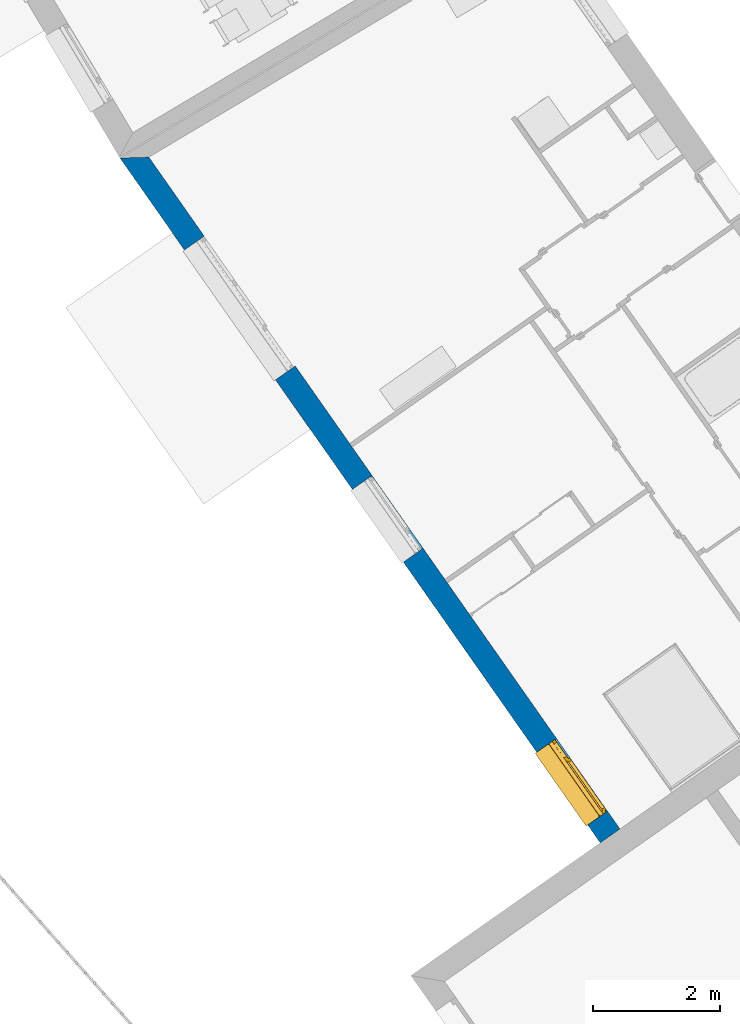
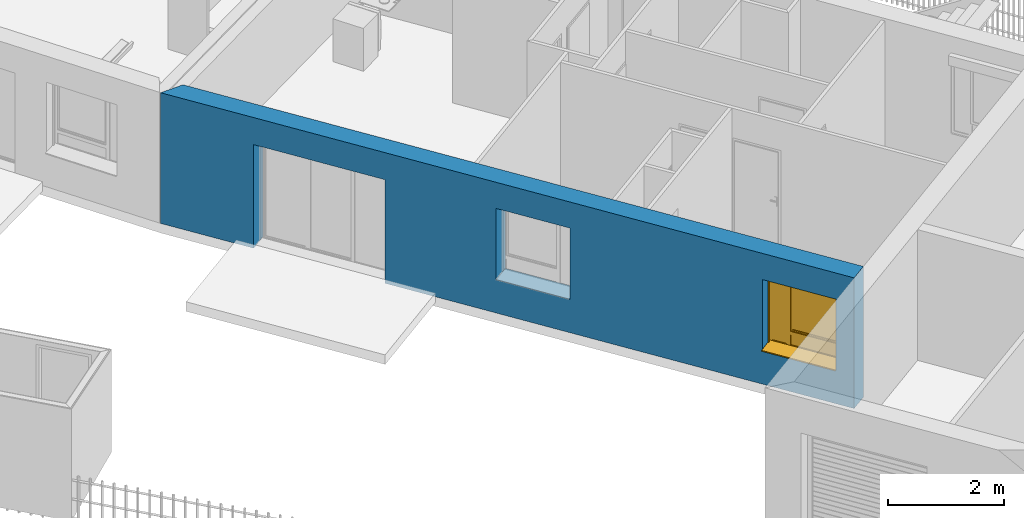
# One storey, part 28 of 195: 1 wall, 1 window, 3 openings.
"""IFC2X3 building model written with IfcOpenShell, lengths in metres."""

from ifc_helpers import new_model, entity, si_unit, converted_unit, derived_unit, money_unit, direction, frame, origin_with_axes, place, context, subcontext, project, spatial, polyline, outline, extrude, open_shell, faceted_brep, surface_model, source, transform, mapped, material, layer, layer_set, layer_usage, type_object, element, fill, save


model = new_model("IFC2X3")

# Units and contexts
model_context = context("Model", 3, precision=1e-05, world=origin_with_axes(), true_north=direction((0.0, 1.0)))
body_context = subcontext(model_context, "Body", "Model", "MODEL_VIEW")
ifc_project = project(units=[si_unit("LENGTHUNIT", "METRE"), si_unit("AREAUNIT", "SQUARE_METRE"), si_unit("VOLUMEUNIT", "CUBIC_METRE"), converted_unit("PLANEANGLEUNIT", "DEGREE", entity("IfcPlaneAngleMeasure", 0.0174532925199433), si_unit("PLANEANGLEUNIT", "RADIAN"), dimensions=[0, 0, 0, 0, 0, 0, 0]), money_unit("CHF"), converted_unit("TIMEUNIT", "Year", entity("IfcTimeMeasure", 31557600.0), si_unit("TIMEUNIT", "SECOND"), dimensions=[0, 0, 1, 0, 0, 0, 0]), si_unit("MASSUNIT", "GRAM", prefix="KILO"), si_unit("THERMODYNAMICTEMPERATUREUNIT", "DEGREE_CELSIUS"), si_unit("LUMINOUSINTENSITYUNIT", "LUMEN"), si_unit("ENERGYUNIT", "JOULE", prefix="MEGA"), derived_unit("THERMALCONDUCTANCEUNIT", [(si_unit("POWERUNIT", "WATT"), 1), (si_unit("LENGTHUNIT", "METRE"), -1), (si_unit("THERMODYNAMICTEMPERATUREUNIT", "KELVIN"), -1)]), derived_unit("SPECIFICHEATCAPACITYUNIT", [(si_unit("ENERGYUNIT", "JOULE"), 1), (si_unit("MASSUNIT", "GRAM", prefix="KILO"), -1), (si_unit("THERMODYNAMICTEMPERATUREUNIT", "KELVIN"), -1)]), derived_unit("MASSDENSITYUNIT", [(si_unit("MASSUNIT", "GRAM", prefix="KILO"), 1), (si_unit("VOLUMEUNIT", "CUBIC_METRE"), -1)])], contexts=[model_context])

# Site, building, storey
site_placement = place(None, origin_with_axes())
site = spatial("IfcSite", under=ifc_project, at=site_placement, Name="Site", CompositionType="ELEMENT")
building_placement = place(site_placement, origin_with_axes())
building = spatial("IfcBuilding", under=site, at=building_placement, Name="Bâtiment", CompositionType="ELEMENT")
storey_placement = place(building_placement, origin_with_axes())
storey = spatial("IfcBuildingStorey", under=building, at=storey_placement, Name="rdc", CompositionType="ELEMENT", Elevation=0.0)

# Wall, openings, window
ifc_material_1 = material(Name="Parpaing 312445824")
ifc_layer_1 = layer(ifc_material_1, 0.22, ventilated="UNKNOWN")
ifc_material_2 = material(Name="Isolant styromousse 301821074")
ifc_layer_2 = layer(ifc_material_2, 0.16, ventilated="UNKNOWN")
ifc_layer_set = layer_set([ifc_layer_1, ifc_layer_2], Name="isol int 22+16 0836643197")
ifc_layer_usage = layer_usage(ifc_layer_set, "AXIS2", "NEGATIVE", 0.0)
wall_type = type_object("IfcWallType", Name="isol int 22+16 0836643197 380", PredefinedType="NOTDEFINED")
wall_placement = place(storey_placement, frame((9550.793347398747, -1066.018324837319, 57.7), z_axis=(0.0, 0.0, 1.0), x_axis=(-0.5741598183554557, 0.8187432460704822, 0.0)))
wall = element("IfcWallStandardCase", 1, at=wall_placement, inside=storey, type_object=wall_type, material=ifc_layer_usage, Name="Mur-113", context=body_context, shape_type="SweptSolid", body=[
    extrude(outline(polyline([(0.0, -0.3799999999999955), (12.93611826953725, -0.3799999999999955), (13.184998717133, 0.0), (0.0, 0.0), (0.0, -0.3799999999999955)])), origin_with_axes(), (0.0, 0.0, 1.0), 2.75),
])
opening_1_placement = place(wall_placement, frame((1.044025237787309, 0.0, 0.7000000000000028), z_axis=(0.0, 0.0, 1.0), x_axis=(1.0, 0.0, 0.0)))
opening_1 = element("IfcOpeningElement", 2, at=opening_1_placement, cuts=wall, Name="Fen-045", context=body_context, shape_type="Brep", body=[
    faceted_brep([(0.7000000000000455, -0.4800000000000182, 1.5), (-0.6999999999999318, -0.4799999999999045, 1.5), (-0.6999999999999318, -6.579129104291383, 1.5), (0.7000000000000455, -6.579129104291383, 1.5), (0.7000000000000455, -0.4800000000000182, 1.700000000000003), (-0.6999999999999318, -0.4799999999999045, 1.700000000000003), (-0.6999999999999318, -0.3000000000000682, 1.5), (-0.6999999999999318, -0.3000000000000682, 0.0), (-0.6999999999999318, -6.579129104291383, 0.0), (0.7000000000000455, -6.579129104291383, 0.0), (0.7000000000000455, -0.3000000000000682, 1.5), (0.7000000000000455, -0.3000000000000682, 0.0), (0.7000000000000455, -0.2200000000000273, 1.5), (0.7000000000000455, -0.2200000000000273, 1.700000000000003), (-0.7000000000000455, -0.2200000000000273, 1.700000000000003), (-0.7000000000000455, -0.2200000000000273, 1.5), (-0.6999999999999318, 6.199129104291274, 1.5), (-0.6999999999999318, 6.199129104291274, 0.0), (0.7000000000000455, 6.199129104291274, 0.0), (0.7000000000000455, 6.199129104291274, 1.5)], [[[0, 1, 2, 3]], [[1, 0, 4, 5]], [[1, 6, 7, 8, 2]], [[2, 8, 9, 3]], [[10, 0, 3, 9, 11]], [[0, 10, 12, 13, 4]], [[4, 13, 14, 5]], [[6, 1, 5, 14, 15]], [[6, 15, 16, 17, 7]], [[7, 11, 9, 8]], [[12, 10, 11, 18, 19]], [[12, 15, 14, 13]], [[15, 12, 19, 16]], [[19, 18, 17, 16]], [[11, 7, 17, 18]]]),
])
opening_2_placement = place(wall_placement, frame((10.16490185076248, 0.0, 0.0), z_axis=(0.0, 0.0, 1.0), x_axis=(1.0, 0.0, 0.0)))
element("IfcOpeningElement", 3, at=opening_2_placement, cuts=wall, Name="Fen-045", context=body_context, shape_type="Brep", body=[
    faceted_brep([(1.25, -0.4799999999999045, 2.18), (-1.25, -0.4800000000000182, 2.18), (-1.25, -6.579129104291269, 2.18), (1.25, -6.579129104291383, 2.18), (1.25, -0.4799999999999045, 2.380000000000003), (-1.25, -0.4800000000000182, 2.380000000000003), (-1.25, -0.3000000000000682, 2.18), (-1.25, -0.3000000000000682, 0.0), (-1.25, -6.579129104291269, 0.0), (1.25, -6.579129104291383, 0.0), (1.25, -0.2999999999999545, 2.18), (1.25, -0.2999999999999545, 0.0), (1.25, -0.2200000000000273, 2.18), (1.25, -0.2200000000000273, 2.380000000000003), (-1.25, -0.2200000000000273, 2.380000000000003), (-1.25, -0.2200000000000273, 2.18), (-1.25, 6.199129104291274, 2.18), (-1.25, 6.199129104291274, 0.0), (1.25, 6.199129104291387, 0.0), (1.25, 6.199129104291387, 2.18)], [[[0, 1, 2, 3]], [[1, 0, 4, 5]], [[1, 6, 7, 8, 2]], [[2, 8, 9, 3]], [[10, 0, 3, 9, 11]], [[0, 10, 12, 13, 4]], [[14, 5, 4, 13]], [[6, 1, 5, 14, 15]], [[6, 15, 16, 17, 7]], [[7, 11, 9, 8]], [[12, 10, 11, 18, 19]], [[12, 15, 14, 13]], [[15, 12, 19, 16]], [[19, 18, 17, 16]], [[11, 7, 17, 18]]]),
])
opening_3_placement = place(wall_placement, frame((6.105388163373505, 0.0, 0.7000000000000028), z_axis=(0.0, 0.0, 1.0), x_axis=(1.0, 0.0, 0.0)))
element("IfcOpeningElement", 4, at=opening_3_placement, cuts=wall, Name="Fen-045", context=body_context, shape_type="Brep", body=[
    faceted_brep([(0.6999999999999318, -0.4799999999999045, 1.5), (-0.7000000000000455, -0.4800000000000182, 1.5), (-0.7000000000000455, -6.579129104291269, 1.5), (0.6999999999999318, -6.579129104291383, 1.5), (0.6999999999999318, -0.4799999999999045, 1.700000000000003), (-0.7000000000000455, -0.4800000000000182, 1.700000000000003), (-0.7000000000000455, -0.2999999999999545, 1.5), (-0.7000000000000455, -0.2999999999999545, 0.0), (-0.7000000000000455, -6.579129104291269, 0.0), (0.6999999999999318, -6.579129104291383, 0.0), (0.6999999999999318, -0.2999999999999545, 1.5), (0.6999999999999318, -0.2999999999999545, 0.0), (0.6999999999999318, -0.2200000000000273, 1.5), (0.6999999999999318, -0.2200000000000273, 1.700000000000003), (-0.7000000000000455, -0.2199999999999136, 1.700000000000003), (-0.7000000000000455, -0.2199999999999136, 1.5), (-0.7000000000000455, 6.199129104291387, 1.5), (-0.7000000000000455, 6.199129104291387, 0.0), (0.6999999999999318, 6.199129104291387, 0.0), (0.6999999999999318, 6.199129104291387, 1.5)], [[[0, 1, 2, 3]], [[1, 0, 4, 5]], [[1, 6, 7, 8, 2]], [[2, 8, 9, 3]], [[10, 0, 3, 9, 11]], [[0, 10, 12, 13, 4]], [[14, 5, 4, 13]], [[6, 1, 5, 14, 15]], [[6, 15, 16, 17, 7]], [[7, 11, 9, 8]], [[12, 10, 11, 18, 19]], [[12, 15, 14, 13]], [[15, 12, 19, 16]], [[19, 18, 17, 16]], [[11, 7, 17, 18]]]),
])
window_style = type_object("IfcWindowStyle", Name="Fenêtre variable 27", ConstructionType="NOTDEFINED", OperationType="TRIPLE_PANEL_LEFT", ParameterTakesPrecedence=False, Sizeable=False)
shared_shape = source(origin_with_axes(), body_context, "Body", "SurfaceModel", [
    surface_model("IfcShellBasedSurfaceModel", [(0.7, -0.05100000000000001, 0.05), (-0.7, -0.05100000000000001, 0.05000000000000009), (-0.7, -0.05100000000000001, 0.04000000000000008), (0.7, -0.05100000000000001, 0.04), (-0.7, -0.3799999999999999, 0.02900000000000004), (0.7, -0.3799999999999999, 0.02899999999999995), (-0.7, -0.3799999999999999, 0.00900000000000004), (0.7, -0.3799999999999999, 0.008999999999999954), (-0.7, -0.3699999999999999, 0.01900000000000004), (0.7, -0.3699999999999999, 0.01899999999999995)], [open_shell([[[0, 1, 2, 3]], [[3, 2, 4, 5]], [[5, 4, 6, 7]], [[7, 6, 8, 9]]])]),
    faceted_brep([(0.7, -0.13, 1.7), (0.7, 0.13, 1.7), (0.697, 0.13, 1.7), (0.697, -0.13, 1.7), (0.7, -0.13, 1.5), (0.7, 0.13, 1.5), (0.697, 0.13, 1.5), (0.697, -0.13, 1.5)], [[[0, 1, 2, 3]], [[0, 4, 5, 1]], [[1, 5, 6, 2]], [[3, 2, 6, 7]], [[4, 0, 3, 7]], [[5, 4, 7, 6]]]),
    faceted_brep([(-0.6970000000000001, -0.1299999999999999, 1.7), (-0.6970000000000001, 0.1300000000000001, 1.7), (-0.7000000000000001, 0.1300000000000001, 1.7), (-0.7000000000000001, -0.1299999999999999, 1.7), (-0.6970000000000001, -0.1299999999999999, 1.5), (-0.6970000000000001, 0.1300000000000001, 1.5), (-0.7000000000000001, 0.1300000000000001, 1.5), (-0.7000000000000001, -0.1299999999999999, 1.5)], [[[0, 1, 2, 3]], [[0, 4, 5, 1]], [[1, 5, 6, 2]], [[3, 2, 6, 7]], [[4, 0, 3, 7]], [[5, 4, 7, 6]]]),
    faceted_brep([(0.697, -0.13, 1.5), (0.697, -0.13, 1.7), (-0.697, -0.1299999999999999, 1.7), (-0.697, -0.1299999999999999, 1.5), (0.697, -0.127, 1.5), (0.697, -0.127, 1.697), (0.697, 0.127, 1.697), (0.697, 0.127, 1.503), (0.697, -0.108, 1.503), (0.697, -0.108, 1.5), (0.697, 0.13, 1.5), (0.697, 0.13, 1.7), (-0.697, 0.1300000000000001, 1.7), (-0.697, 0.1300000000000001, 1.5), (-0.697, -0.1079999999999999, 1.5), (-0.697, -0.1079999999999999, 1.503), (-0.697, 0.1270000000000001, 1.503), (-0.697, 0.1270000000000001, 1.697), (-0.697, -0.1269999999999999, 1.697), (-0.697, -0.1269999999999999, 1.5)], [[[0, 1, 2, 3]], [[0, 4, 5, 6, 7, 8, 9, 10, 11, 1]], [[1, 11, 12, 2]], [[3, 2, 12, 13, 14, 15, 16, 17, 18, 19]], [[4, 0, 3, 19]], [[5, 4, 19, 18]], [[6, 5, 18, 17]], [[7, 6, 17, 16]], [[8, 7, 16, 15]], [[9, 8, 15, 14]], [[10, 9, 14, 13]], [[11, 10, 13, 12]]]),
    faceted_brep([(0.694, -0.08075423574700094, 1.585760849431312), (0.694, -0.07705479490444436, 1.571954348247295), (0.694, -0.07101408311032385, 1.559), (0.694, -0.06281564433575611, 1.547291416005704), (0.694, -0.05270858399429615, 1.537184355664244), (0.694, -0.04099999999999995, 1.528985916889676), (0.694, -0.02804565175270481, 1.522945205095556), (0.694, -0.01423915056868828, 1.519245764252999), (0.694, 0.0, 1.518), (0.694, 0.01423915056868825, 1.519245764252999), (0.694, 0.02804565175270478, 1.522945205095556), (0.694, 0.04099999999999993, 1.528985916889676), (0.694, 0.05270858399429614, 1.537184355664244), (0.694, 0.06281564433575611, 1.547291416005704), (0.694, 0.07101408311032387, 1.559), (0.694, 0.07705479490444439, 1.571954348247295), (0.694, 0.08075423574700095, 1.585760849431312), (0.694, 0.0819999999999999, 1.6), (0.694, 0.08075423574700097, 1.614239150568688), (0.694, 0.0770547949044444, 1.628045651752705), (0.694, 0.07101408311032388, 1.641), (0.694, 0.06281564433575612, 1.652708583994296), (0.694, 0.05270858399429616, 1.662815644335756), (0.694, 0.04099999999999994, 1.671014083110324), (0.694, 0.02804565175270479, 1.677054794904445), (0.694, 0.01423915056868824, 1.680754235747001), (0.694, 0.0, 1.682), (0.694, -0.01423915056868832, 1.680754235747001), (0.694, -0.02804565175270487, 1.677054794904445), (0.694, -0.04100000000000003, 1.671014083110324), (0.694, -0.05270858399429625, 1.662815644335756), (0.694, -0.06281564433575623, 1.652708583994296), (0.694, -0.07101408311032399, 1.641), (0.694, -0.07705479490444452, 1.628045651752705), (0.694, -0.0807542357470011, 1.614239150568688), (0.694, -0.08200000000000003, 1.6), (-0.694, -0.08075423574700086, 1.585760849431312), (-0.694, -0.07705479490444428, 1.571954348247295), (-0.694, -0.07101408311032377, 1.559), (-0.694, -0.06281564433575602, 1.547291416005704), (-0.694, -0.05270858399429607, 1.537184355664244), (-0.694, -0.04099999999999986, 1.528985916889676), (-0.694, -0.02804565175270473, 1.522945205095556), (-0.694, -0.0142391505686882, 1.519245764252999), (-0.694, 0.0, 1.518), (-0.694, 0.01423915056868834, 1.519245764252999), (-0.694, 0.02804565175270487, 1.522945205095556), (-0.694, 0.04100000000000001, 1.528985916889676), (-0.694, 0.05270858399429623, 1.537184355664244), (-0.694, 0.06281564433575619, 1.547291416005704), (-0.694, 0.07101408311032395, 1.559), (-0.694, 0.07705479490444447, 1.571954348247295), (-0.694, 0.08075423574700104, 1.585760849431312), (-0.694, 0.08199999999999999, 1.6), (-0.694, 0.08075423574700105, 1.614239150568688), (-0.694, 0.07705479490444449, 1.628045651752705), (-0.694, 0.07101408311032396, 1.641), (-0.694, 0.0628156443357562, 1.652708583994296), (-0.694, 0.05270858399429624, 1.662815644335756), (-0.694, 0.04100000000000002, 1.671014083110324), (-0.694, 0.02804565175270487, 1.677054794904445), (-0.694, 0.01423915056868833, 1.680754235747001), (-0.694, 0.0, 1.682), (-0.694, -0.01423915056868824, 1.680754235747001), (-0.694, -0.02804565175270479, 1.677054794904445), (-0.694, -0.04099999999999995, 1.671014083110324), (-0.694, -0.05270858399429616, 1.662815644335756), (-0.694, -0.06281564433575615, 1.652708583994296), (-0.694, -0.07101408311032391, 1.641), (-0.694, -0.07705479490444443, 1.628045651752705), (-0.694, -0.08075423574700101, 1.614239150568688), (-0.694, -0.08199999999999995, 1.6)], [[[0, 1, 2, 3, 4, 5, 6, 7, 8, 9, 10, 11, 12, 13, 14, 15, 16, 17, 18, 19, 20, 21, 22, 23, 24, 25, 26, 27, 28, 29, 30, 31, 32, 33, 34, 35]], [[1, 0, 36, 37]], [[2, 1, 37, 38]], [[3, 2, 38, 39]], [[4, 3, 39, 40]], [[5, 4, 40, 41]], [[6, 5, 41, 42]], [[7, 6, 42, 43]], [[8, 7, 43, 44]], [[9, 8, 44, 45]], [[10, 9, 45, 46]], [[11, 10, 46, 47]], [[12, 11, 47, 48]], [[13, 12, 48, 49]], [[14, 13, 49, 50]], [[15, 14, 50, 51]], [[16, 15, 51, 52]], [[17, 16, 52, 53]], [[18, 17, 53, 54]], [[19, 18, 54, 55]], [[20, 19, 55, 56]], [[21, 20, 56, 57]], [[22, 21, 57, 58]], [[23, 22, 58, 59]], [[24, 23, 59, 60]], [[25, 24, 60, 61]], [[26, 25, 61, 62]], [[27, 26, 62, 63]], [[28, 27, 63, 64]], [[29, 28, 64, 65]], [[30, 29, 65, 66]], [[31, 30, 66, 67]], [[32, 31, 67, 68]], [[33, 32, 68, 69]], [[34, 33, 69, 70]], [[35, 34, 70, 71]], [[0, 35, 71, 36]], [[36, 71, 70, 69, 68, 67, 66, 65, 64, 63, 62, 61, 60, 59, 58, 57, 56, 55, 54, 53, 52, 51, 50, 49, 48, 47, 46, 45, 44, 43, 42, 41, 40, 39, 38, 37]]]),
    faceted_brep([(-0.7, -0.105, 0.03), (-0.7, -0.13, 0.03), (-0.7, -0.1299999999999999, 1.5), (-0.7, -0.1049999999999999, 1.5), (-0.6749999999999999, -0.105, 0.03), (-0.6749999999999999, -0.108, 0.03), (-0.697, -0.108, 0.03), (-0.697, -0.127, 0.03), (-0.6749999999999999, -0.127, 0.03), (-0.6749999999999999, -0.13, 0.03), (-0.6749999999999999, -0.1299999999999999, 1.5), (-0.6749999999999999, -0.1269999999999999, 1.5), (-0.697, -0.1269999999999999, 1.5), (-0.697, -0.1079999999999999, 1.5), (-0.6749999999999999, -0.1079999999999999, 1.5), (-0.6749999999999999, -0.1049999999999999, 1.5)], [[[0, 1, 2, 3]], [[0, 4, 5, 6, 7, 8, 9, 1]], [[1, 9, 10, 2]], [[3, 2, 10, 11, 12, 13, 14, 15]], [[4, 0, 3, 15]], [[5, 4, 15, 14]], [[6, 5, 14, 13]], [[7, 6, 13, 12]], [[8, 7, 12, 11]], [[9, 8, 11, 10]]]),
    faceted_brep([(0.7, -0.105, 0.03), (0.7, -0.1049999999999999, 1.5), (0.7, -0.1299999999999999, 1.5), (0.7, -0.13, 0.03), (0.6749999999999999, -0.105, 0.03), (0.6749999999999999, -0.1049999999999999, 1.5), (0.6749999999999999, -0.1079999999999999, 1.5), (0.697, -0.1079999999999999, 1.5), (0.697, -0.1269999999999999, 1.5), (0.6749999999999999, -0.1269999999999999, 1.5), (0.6749999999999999, -0.1299999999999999, 1.5), (0.6749999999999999, -0.13, 0.03), (0.6749999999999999, -0.127, 0.03), (0.697, -0.127, 0.03), (0.697, -0.108, 0.03), (0.6749999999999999, -0.108, 0.03)], [[[0, 1, 2, 3]], [[4, 5, 1, 0]], [[1, 5, 6, 7, 8, 9, 10, 2]], [[3, 2, 10, 11]], [[0, 3, 11, 12, 13, 14, 15, 4]], [[15, 6, 5, 4]], [[14, 7, 6, 15]], [[13, 8, 7, 14]], [[12, 9, 8, 13]], [[11, 10, 9, 12]]]),
    surface_model("IfcShellBasedSurfaceModel", [(0.697, -0.115, 1.6), (-0.697, -0.1149999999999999, 1.6), (-0.697, -0.12, 1.6), (0.697, -0.12, 1.6), (0.697, -0.115, 1.6), (0.697, -0.12, 1.6), (-0.697, -0.1199999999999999, 1.6), (-0.697, -0.1149999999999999, 1.6)], [open_shell([[[0, 1, 2, 3]], [[4, 5, 6, 7]]])]),
    faceted_brep([(0.697, -0.115, 1.6), (0.697, -0.1166666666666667, 1.583333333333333), (-0.697, -0.1166666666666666, 1.583333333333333), (-0.697, -0.1149999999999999, 1.6), (0.697, -0.12, 1.6), (0.697, -0.1216666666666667, 1.583333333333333), (0.697, -0.1216666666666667, 1.566666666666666), (0.697, -0.12, 1.55), (0.697, -0.115, 1.55), (0.697, -0.1166666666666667, 1.566666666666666), (-0.697, -0.1166666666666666, 1.566666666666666), (-0.697, -0.1149999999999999, 1.55), (-0.697, -0.1199999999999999, 1.55), (-0.697, -0.1216666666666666, 1.566666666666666), (-0.697, -0.1216666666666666, 1.583333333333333), (-0.697, -0.1199999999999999, 1.6)], [[[0, 1, 2, 3]], [[0, 4, 5, 6, 7, 8, 9, 1]], [[1, 9, 10, 2]], [[3, 2, 10, 11, 12, 13, 14, 15]], [[4, 0, 3, 15]], [[5, 4, 15, 14]], [[6, 5, 14, 13]], [[7, 6, 13, 12]], [[8, 7, 12, 11]], [[9, 8, 11, 10]]]),
    faceted_brep([(0.697, -0.115, 1.55), (0.697, -0.1166666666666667, 1.533333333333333), (-0.697, -0.1166666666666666, 1.533333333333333), (-0.697, -0.1149999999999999, 1.55), (0.697, -0.12, 1.55), (0.697, -0.1216666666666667, 1.533333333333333), (0.697, -0.1216666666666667, 1.516666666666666), (0.697, -0.12, 1.5), (0.697, -0.115, 1.5), (0.697, -0.1166666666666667, 1.516666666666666), (-0.697, -0.1166666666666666, 1.516666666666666), (-0.697, -0.1149999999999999, 1.5), (-0.697, -0.1199999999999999, 1.5), (-0.697, -0.1216666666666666, 1.516666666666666), (-0.697, -0.1216666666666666, 1.533333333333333), (-0.697, -0.1199999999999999, 1.55)], [[[0, 1, 2, 3]], [[0, 4, 5, 6, 7, 8, 9, 1]], [[1, 9, 10, 2]], [[3, 2, 10, 11, 12, 13, 14, 15]], [[4, 0, 3, 15]], [[5, 4, 15, 14]], [[6, 5, 14, 13]], [[7, 6, 13, 12]], [[8, 7, 12, 11]], [[9, 8, 11, 10]]]),
    faceted_brep([(0.6749999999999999, 0.0, 1.45), (0.6749999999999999, -0.02500000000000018, 1.45), (0.6499999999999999, -0.02500000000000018, 1.45), (0.6499999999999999, -0.05000000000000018, 1.45), (0.7, -0.05000000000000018, 1.45), (0.7, 0.0, 1.45), (0.6749999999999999, 0.0, 0.3099999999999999), (0.6749999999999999, -0.02500000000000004, 0.3099999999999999), (0.6499999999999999, -0.02500000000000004, 0.335), (0.6499999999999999, -0.02500000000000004, 0.3099999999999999), (0.6499999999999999, -0.05000000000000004, 0.335), (0.6499999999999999, -0.05000000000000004, 0.265), (0.6499999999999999, -0.05000000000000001, 0.05000000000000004), (0.7, -0.05000000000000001, 0.05000000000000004), (0.7, 0.0, 0.05000000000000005), (0.6499999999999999, 0.0, 0.05000000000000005), (0.6499999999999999, 0.0, 0.265), (0.6499999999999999, 0.0, 0.3099999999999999)], [[[0, 1, 2, 3, 4, 5]], [[1, 0, 6, 7]], [[8, 2, 1, 7, 9]], [[2, 8, 10, 3]], [[10, 11, 12, 13, 4, 3]], [[5, 4, 13, 14]], [[6, 0, 5, 14, 15, 16, 17]], [[6, 17, 9, 7]], [[9, 17, 16, 11, 10, 8]], [[15, 12, 11, 16]], [[14, 13, 12, 15]]]),
    faceted_brep([(-0.3068894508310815, -0.02500000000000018, 1.45), (-0.3318894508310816, -0.02500000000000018, 1.45), (-0.3318894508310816, 0.0, 1.45), (-0.3768894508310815, 0.0, 1.45), (-0.3768894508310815, -0.05000000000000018, 1.45), (-0.3068894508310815, -0.05000000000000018, 1.45), (-0.3068894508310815, -0.02500000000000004, 0.335), (-0.3068894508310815, -0.02500000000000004, 0.3099999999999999), (-0.3318894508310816, -0.02500000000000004, 0.3099999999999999), (-0.3318894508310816, 0.0, 0.3099999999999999), (-0.3068894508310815, 0.0, 0.3099999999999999), (-0.3068894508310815, 0.0, 0.265), (-0.3068894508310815, 0.0, 0.05000000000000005), (-0.3768894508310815, 0.0, 0.05000000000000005), (-0.3768894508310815, -0.05000000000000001, 0.05000000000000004), (-0.3068894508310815, -0.05000000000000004, 0.265), (-0.3068894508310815, -0.05000000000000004, 0.335), (-0.3068894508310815, -0.05000000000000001, 0.05000000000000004)], [[[0, 1, 2, 3, 4, 5]], [[1, 0, 6, 7, 8]], [[9, 2, 1, 8]], [[9, 10, 11, 12, 13, 3, 2]], [[13, 14, 4, 3]], [[15, 16, 5, 4, 14, 17]], [[6, 0, 5, 16]], [[7, 6, 16, 15, 11, 10]], [[10, 9, 8, 7]], [[11, 15, 17, 12]], [[12, 17, 14, 13]]]),
    faceted_brep([(0.6499999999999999, -0.02500000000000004, 0.335), (-0.3068894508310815, -0.02500000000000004, 0.335), (-0.3068894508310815, -0.05000000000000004, 0.335), (0.6499999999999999, -0.05000000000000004, 0.335), (-0.3068894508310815, -0.02500000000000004, 0.3099999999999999), (0.6499999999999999, -0.02500000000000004, 0.3099999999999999), (-0.3068894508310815, 0.0, 0.3099999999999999), (-0.3068894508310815, 0.0, 0.265), (-0.3068894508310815, -0.05000000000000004, 0.265), (0.6499999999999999, -0.05000000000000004, 0.265), (0.6499999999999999, 0.0, 0.265), (0.6499999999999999, 0.0, 0.3099999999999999)], [[[0, 1, 2, 3]], [[4, 1, 0, 5]], [[4, 6, 7, 8, 2, 1]], [[2, 8, 9, 3]], [[5, 0, 3, 9, 10, 11]], [[11, 6, 4, 5]], [[6, 11, 10, 7]], [[10, 9, 8, 7]]]),
    faceted_brep([(0.6749999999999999, 0.0, 1.45), (0.6749999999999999, 0.0, 1.475), (-0.3318894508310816, 0.0, 1.475), (-0.3318894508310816, 0.0, 1.45), (-0.3768894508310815, 0.0, 1.45), (-0.6499999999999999, 0.0, 1.45), (-0.7, 0.0, 1.45), (-0.7, 0.0, 1.5), (0.7, 0.0, 1.5), (0.7, 0.0, 1.45), (0.6749999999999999, -0.02500000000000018, 1.45), (0.6749999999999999, -0.02500000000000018, 1.475), (-0.3318894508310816, -0.02500000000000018, 1.475), (-0.3318894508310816, -0.02500000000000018, 1.45), (-0.3068894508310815, -0.02500000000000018, 1.45), (-0.3068894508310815, -0.05000000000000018, 1.45), (-0.3768894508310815, -0.05000000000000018, 1.45), (-0.6499999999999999, -0.05000000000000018, 1.45), (-0.7, -0.05000000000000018, 1.45), (-0.7, -0.05000000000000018, 1.5), (0.7, -0.05000000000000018, 1.5), (0.7, -0.05000000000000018, 1.45), (0.6499999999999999, -0.05000000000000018, 1.45), (0.6499999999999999, -0.02500000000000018, 1.45)], [[[0, 1, 2, 3, 4, 5, 6, 7, 8, 9]], [[1, 0, 10, 11]], [[2, 1, 11, 12]], [[3, 2, 12, 13]], [[13, 14, 15, 16, 4, 3]], [[4, 16, 17, 5]], [[5, 17, 18, 6]], [[6, 18, 19, 7]], [[7, 19, 20, 8]], [[8, 20, 21, 9]], [[10, 0, 9, 21, 22, 23]], [[14, 13, 12, 11, 10, 23]], [[14, 23, 22, 15]], [[16, 15, 22, 21, 20, 19, 18, 17]]]),
    faceted_brep([(-0.6499999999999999, -0.05000000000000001, 0.05), (-0.7, -0.05000000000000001, 0.05), (-0.7, 0.0, 0.05000000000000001), (-0.6499999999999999, 0.0, 0.05000000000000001), (-0.6499999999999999, -0.05000000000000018, 1.45), (-0.7, -0.05000000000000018, 1.45), (-0.7, 0.0, 1.45), (-0.6499999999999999, 0.0, 1.45)], [[[0, 1, 2, 3]], [[0, 4, 5, 1]], [[1, 5, 6, 2]], [[3, 2, 6, 7]], [[4, 0, 3, 7]], [[5, 4, 7, 6]]]),
    faceted_brep([(0.6499999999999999, -0.05000000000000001, 0.05), (0.7, -0.05000000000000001, 0.05), (0.7, 0.0, 0.05000000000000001), (0.6499999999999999, 0.0, 0.05000000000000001), (-0.3068894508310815, -0.05000000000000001, 0.05), (-0.3768894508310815, -0.05000000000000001, 0.05), (-0.6499999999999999, -0.05000000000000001, 0.05), (-0.7, -0.05000000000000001, 0.05), (-0.7, -0.05, 0.0), (0.7, -0.05, 0.0), (0.7, 0.0, 0.0), (-0.7, 0.0, 0.0), (-0.7, 0.0, 0.05000000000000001), (-0.6499999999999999, 0.0, 0.05000000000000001), (-0.3768894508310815, 0.0, 0.05000000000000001), (-0.3068894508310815, 0.0, 0.05000000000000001)], [[[0, 1, 2, 3]], [[0, 4, 5, 6, 7, 8, 9, 1]], [[1, 9, 10, 2]], [[3, 2, 10, 11, 12, 13, 14, 15]], [[4, 0, 3, 15]], [[5, 4, 15, 14]], [[6, 5, 14, 13]], [[7, 6, 13, 12]], [[8, 7, 12, 11]], [[9, 8, 11, 10]]]),
    faceted_brep([(0.625, -0.02500000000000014, 1.425), (0.6749999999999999, -0.02500000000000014, 1.425), (0.6749999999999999, 0.02499999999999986, 1.425), (0.625, 0.02499999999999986, 1.425), (0.625, -0.02500000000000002, 0.3599999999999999), (0.6749999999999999, -0.02500000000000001, 0.3599999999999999), (0.6749999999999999, 0.02499999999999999, 0.3599999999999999), (0.625, 0.02499999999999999, 0.3599999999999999)], [[[0, 1, 2, 3]], [[0, 4, 5, 1]], [[1, 5, 6, 2]], [[3, 2, 6, 7]], [[4, 0, 3, 7]], [[5, 4, 7, 6]]]),
    faceted_brep([(-0.2818894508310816, -0.02500000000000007, 0.3599999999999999), (-0.3318894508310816, -0.02500000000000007, 0.3599999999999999), (-0.3318894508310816, 0.02499999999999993, 0.3599999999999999), (-0.2818894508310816, 0.02499999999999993, 0.3599999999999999), (-0.2818894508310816, -0.0250000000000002, 1.425), (-0.3318894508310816, -0.0250000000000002, 1.425), (-0.3318894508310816, 0.0249999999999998, 1.425), (-0.2818894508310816, 0.0249999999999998, 1.425)], [[[0, 1, 2, 3]], [[0, 4, 5, 1]], [[1, 5, 6, 2]], [[3, 2, 6, 7]], [[4, 0, 3, 7]], [[5, 4, 7, 6]]]),
    faceted_brep([(-0.3318894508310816, -0.02500000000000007, 0.3099999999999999), (-0.3318894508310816, -0.02500000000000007, 0.3599999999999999), (-0.3318894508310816, 0.02499999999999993, 0.3599999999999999), (-0.3318894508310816, 0.02499999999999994, 0.3099999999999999), (0.6749999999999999, -0.025, 0.3099999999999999), (0.6749999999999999, -0.02500000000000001, 0.3599999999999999), (0.625, -0.02500000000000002, 0.3599999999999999), (-0.2818894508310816, -0.02500000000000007, 0.3599999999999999), (-0.2818894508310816, 0.02499999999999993, 0.3599999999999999), (0.625, 0.02499999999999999, 0.3599999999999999), (0.6749999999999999, 0.02499999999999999, 0.3599999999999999), (0.6749999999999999, 0.02499999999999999, 0.3099999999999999)], [[[0, 1, 2, 3]], [[0, 4, 5, 6, 7, 1]], [[1, 7, 8, 2]], [[3, 2, 8, 9, 10, 11]], [[4, 0, 3, 11]], [[5, 4, 11, 10]], [[6, 5, 10, 9]], [[7, 6, 9, 8]]]),
    faceted_brep([(0.6749999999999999, -0.02500000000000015, 1.475), (0.6749999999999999, -0.02500000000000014, 1.425), (0.6749999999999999, 0.02499999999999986, 1.425), (0.6749999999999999, 0.02499999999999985, 1.475), (-0.3318894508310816, -0.02500000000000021, 1.475), (-0.3318894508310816, -0.0250000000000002, 1.425), (-0.2818894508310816, -0.0250000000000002, 1.425), (0.625, -0.02500000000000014, 1.425), (0.625, 0.02499999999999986, 1.425), (-0.2818894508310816, 0.0249999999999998, 1.425), (-0.3318894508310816, 0.0249999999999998, 1.425), (-0.3318894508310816, 0.02499999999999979, 1.475)], [[[0, 1, 2, 3]], [[0, 4, 5, 6, 7, 1]], [[1, 7, 8, 2]], [[3, 2, 8, 9, 10, 11]], [[4, 0, 3, 11]], [[5, 4, 11, 10]], [[6, 5, 10, 9]], [[7, 6, 9, 8]]]),
    surface_model("IfcShellBasedSurfaceModel", [(0.625, -0.01000000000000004, 0.3599999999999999), (0.625, -0.01000000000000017, 1.425), (-0.2818894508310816, -0.01000000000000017, 1.425), (-0.2818894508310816, -0.01000000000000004, 0.3599999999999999)], [open_shell([[[0, 1, 2, 3]]])]),
    surface_model("IfcShellBasedSurfaceModel", [(0.625, 0.009999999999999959, 0.3599999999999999), (-0.2818894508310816, 0.009999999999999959, 0.3599999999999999), (-0.2818894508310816, 0.00999999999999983, 1.425), (0.625, 0.00999999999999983, 1.425)], [open_shell([[[0, 1, 2, 3]]])]),
    surface_model("IfcShellBasedSurfaceModel", [(-0.3768894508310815, -0.035, 0.05), (-0.3768894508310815, -0.03500000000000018, 1.45), (-0.65, -0.03500000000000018, 1.45), (-0.65, -0.035, 0.05)], [open_shell([[[0, 1, 2, 3]]])]),
    surface_model("IfcShellBasedSurfaceModel", [(-0.3768894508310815, -0.015, 0.05), (-0.65, -0.015, 0.05), (-0.65, -0.01500000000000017, 1.45), (-0.3768894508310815, -0.01500000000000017, 1.45)], [open_shell([[[0, 1, 2, 3]]])]),
    surface_model("IfcShellBasedSurfaceModel", [(0.6499999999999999, -0.035, 0.05), (0.6499999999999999, -0.03500000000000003, 0.265), (-0.3068894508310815, -0.03500000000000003, 0.265), (-0.3068894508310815, -0.035, 0.05)], [open_shell([[[0, 1, 2, 3]]])]),
    surface_model("IfcShellBasedSurfaceModel", [(0.6499999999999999, -0.015, 0.05), (-0.3068894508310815, -0.015, 0.05), (-0.3068894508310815, -0.01500000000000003, 0.265), (0.6499999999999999, -0.01500000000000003, 0.265)], [open_shell([[[0, 1, 2, 3]]])]),
])
window_placement = place(opening_1_placement, frame((0.6999999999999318, 0.0, 0.0), z_axis=(0.0, 0.0, 1.0), x_axis=(-1.0, 0.0, 0.0)))
window = element("IfcWindow", 5, at=window_placement, inside=storey, type_object=window_style, Name="Fen-045", OverallHeight=1.5, OverallWidth=1.4, context=body_context, shape_type="MappedRepresentation", body=[
    mapped(shared_shape, transform((0.7000000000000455, 0.3500000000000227, 0.0))),
])
fill(opening_1, window)

save(model, "model.ifc")
